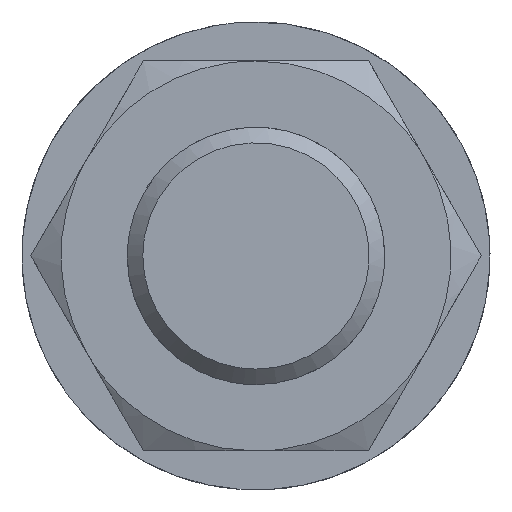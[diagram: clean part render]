
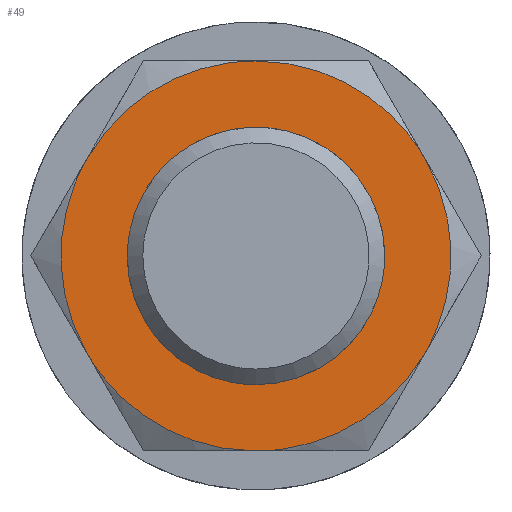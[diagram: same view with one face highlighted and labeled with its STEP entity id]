
A CAD part, left-side view. The second image highlights one B-rep face of the part: STEP entity #49.
In plain terms, the highlighted planar face has unit normal (-1, 0, 0).
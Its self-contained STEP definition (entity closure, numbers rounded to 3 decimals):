
#40=FACE_BOUND('',#138,.T.);
#49=ADVANCED_FACE('',(#92,#40),#663,.T.);
#92=FACE_OUTER_BOUND('',#137,.T.);
#137=EDGE_LOOP('',(#202,#203,#204,#205,#206,#207));
#138=EDGE_LOOP('',(#208,#209));
#202=ORIENTED_EDGE('',*,*,#405,.F.);
#203=ORIENTED_EDGE('',*,*,#407,.F.);
#204=ORIENTED_EDGE('',*,*,#408,.F.);
#205=ORIENTED_EDGE('',*,*,#406,.F.);
#206=ORIENTED_EDGE('',*,*,#404,.F.);
#207=ORIENTED_EDGE('',*,*,#403,.F.);
#208=ORIENTED_EDGE('',*,*,#393,.F.);
#209=ORIENTED_EDGE('',*,*,#391,.F.);
#391=EDGE_CURVE('',#608,#598,#518,.T.);
#393=EDGE_CURVE('',#598,#608,#519,.T.);
#403=EDGE_CURVE('',#602,#603,#527,.T.);
#404=EDGE_CURVE('',#603,#607,#528,.T.);
#405=EDGE_CURVE('',#604,#602,#529,.T.);
#406=EDGE_CURVE('',#607,#606,#530,.T.);
#407=EDGE_CURVE('',#605,#604,#531,.T.);
#408=EDGE_CURVE('',#606,#605,#532,.T.);
#518=(
BOUNDED_CURVE()
B_SPLINE_CURVE(2,(#1166,#1167,#1168,#1169,#1170),.UNSPECIFIED.,.F.,.F.)
B_SPLINE_CURVE_WITH_KNOTS((3,2,3),(51.836,77.754,103.672),
 .UNSPECIFIED.)
CURVE()
GEOMETRIC_REPRESENTATION_ITEM()
RATIONAL_B_SPLINE_CURVE((1.,0.707,1.,0.707,1.))
REPRESENTATION_ITEM('')
);
#519=(
BOUNDED_CURVE()
B_SPLINE_CURVE(2,(#1173,#1174,#1175,#1176,#1177),.UNSPECIFIED.,.F.,.F.)
B_SPLINE_CURVE_WITH_KNOTS((3,2,3),(0.,25.918,51.836),
 .UNSPECIFIED.)
CURVE()
GEOMETRIC_REPRESENTATION_ITEM()
RATIONAL_B_SPLINE_CURVE((1.,0.707,1.,0.707,1.))
REPRESENTATION_ITEM('')
);
#527=(
BOUNDED_CURVE()
B_SPLINE_CURVE(2,(#1215,#1216,#1217),.UNSPECIFIED.,.F.,.F.)
B_SPLINE_CURVE_WITH_KNOTS((3,3),(0.,26.18),.UNSPECIFIED.)
CURVE()
GEOMETRIC_REPRESENTATION_ITEM()
RATIONAL_B_SPLINE_CURVE((1.,0.866,1.))
REPRESENTATION_ITEM('')
);
#528=(
BOUNDED_CURVE()
B_SPLINE_CURVE(2,(#1218,#1219,#1220),.UNSPECIFIED.,.F.,.F.)
B_SPLINE_CURVE_WITH_KNOTS((3,3),(0.,26.18),.UNSPECIFIED.)
CURVE()
GEOMETRIC_REPRESENTATION_ITEM()
RATIONAL_B_SPLINE_CURVE((1.,0.866,1.))
REPRESENTATION_ITEM('')
);
#529=(
BOUNDED_CURVE()
B_SPLINE_CURVE(2,(#1221,#1222,#1223),.UNSPECIFIED.,.F.,.F.)
B_SPLINE_CURVE_WITH_KNOTS((3,3),(0.,26.18),.UNSPECIFIED.)
CURVE()
GEOMETRIC_REPRESENTATION_ITEM()
RATIONAL_B_SPLINE_CURVE((1.,0.866,1.))
REPRESENTATION_ITEM('')
);
#530=(
BOUNDED_CURVE()
B_SPLINE_CURVE(2,(#1224,#1225,#1226),.UNSPECIFIED.,.F.,.F.)
B_SPLINE_CURVE_WITH_KNOTS((3,3),(0.,26.18),.UNSPECIFIED.)
CURVE()
GEOMETRIC_REPRESENTATION_ITEM()
RATIONAL_B_SPLINE_CURVE((1.,0.866,1.))
REPRESENTATION_ITEM('')
);
#531=(
BOUNDED_CURVE()
B_SPLINE_CURVE(2,(#1227,#1228,#1229),.UNSPECIFIED.,.F.,.F.)
B_SPLINE_CURVE_WITH_KNOTS((3,3),(0.,26.18),.UNSPECIFIED.)
CURVE()
GEOMETRIC_REPRESENTATION_ITEM()
RATIONAL_B_SPLINE_CURVE((1.,0.866,1.))
REPRESENTATION_ITEM('')
);
#532=(
BOUNDED_CURVE()
B_SPLINE_CURVE(2,(#1230,#1231,#1232),.UNSPECIFIED.,.F.,.F.)
B_SPLINE_CURVE_WITH_KNOTS((3,3),(0.,26.18),.UNSPECIFIED.)
CURVE()
GEOMETRIC_REPRESENTATION_ITEM()
RATIONAL_B_SPLINE_CURVE((1.,0.866,1.))
REPRESENTATION_ITEM('')
);
#598=VERTEX_POINT('',#1134);
#602=VERTEX_POINT('',#1138);
#603=VERTEX_POINT('',#1139);
#604=VERTEX_POINT('',#1140);
#605=VERTEX_POINT('',#1141);
#606=VERTEX_POINT('',#1142);
#607=VERTEX_POINT('',#1143);
#608=VERTEX_POINT('',#1144);
#663=PLANE('',#777);
#777=AXIS2_PLACEMENT_3D('',#891,#803,$);
#803=DIRECTION('',(-1.,0.,0.));
#891=CARTESIAN_POINT('',(41.333,-34.761,30.12));
#1134=CARTESIAN_POINT('',(41.333,0.,-16.5));
#1138=CARTESIAN_POINT('',(41.333,-21.651,12.5));
#1139=CARTESIAN_POINT('',(41.333,-21.651,-12.5));
#1140=CARTESIAN_POINT('',(41.333,0.,25.));
#1141=CARTESIAN_POINT('',(41.333,21.651,12.5));
#1142=CARTESIAN_POINT('',(41.333,21.651,-12.5));
#1143=CARTESIAN_POINT('',(41.333,0.,-25.));
#1144=CARTESIAN_POINT('',(41.333,0.,16.5));
#1166=CARTESIAN_POINT('',(41.333,0.,16.5));
#1167=CARTESIAN_POINT('',(41.333,16.5,16.5));
#1168=CARTESIAN_POINT('',(41.333,16.5,0.));
#1169=CARTESIAN_POINT('',(41.333,16.5,-16.5));
#1170=CARTESIAN_POINT('',(41.333,0.,-16.5));
#1173=CARTESIAN_POINT('',(41.333,0.,-16.5));
#1174=CARTESIAN_POINT('',(41.333,-16.5,-16.5));
#1175=CARTESIAN_POINT('',(41.333,-16.5,0.));
#1176=CARTESIAN_POINT('',(41.333,-16.5,16.5));
#1177=CARTESIAN_POINT('',(41.333,0.,16.5));
#1215=CARTESIAN_POINT('',(41.333,-21.651,12.5));
#1216=CARTESIAN_POINT('',(41.333,-28.868,0.));
#1217=CARTESIAN_POINT('',(41.333,-21.651,-12.5));
#1218=CARTESIAN_POINT('',(41.333,-21.651,-12.5));
#1219=CARTESIAN_POINT('',(41.333,-14.434,-25.));
#1220=CARTESIAN_POINT('',(41.333,0.,-25.));
#1221=CARTESIAN_POINT('',(41.333,0.,25.));
#1222=CARTESIAN_POINT('',(41.333,-14.434,25.));
#1223=CARTESIAN_POINT('',(41.333,-21.651,12.5));
#1224=CARTESIAN_POINT('',(41.333,0.,-25.));
#1225=CARTESIAN_POINT('',(41.333,14.434,-25.));
#1226=CARTESIAN_POINT('',(41.333,21.651,-12.5));
#1227=CARTESIAN_POINT('',(41.333,21.651,12.5));
#1228=CARTESIAN_POINT('',(41.333,14.434,25.));
#1229=CARTESIAN_POINT('',(41.333,0.,25.));
#1230=CARTESIAN_POINT('',(41.333,21.651,-12.5));
#1231=CARTESIAN_POINT('',(41.333,28.868,0.));
#1232=CARTESIAN_POINT('',(41.333,21.651,12.5));
